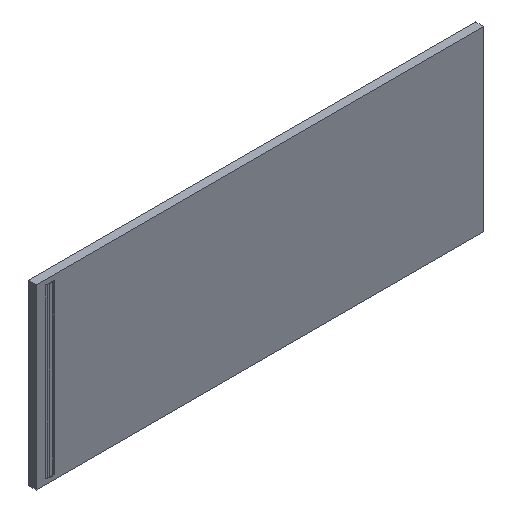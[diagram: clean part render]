
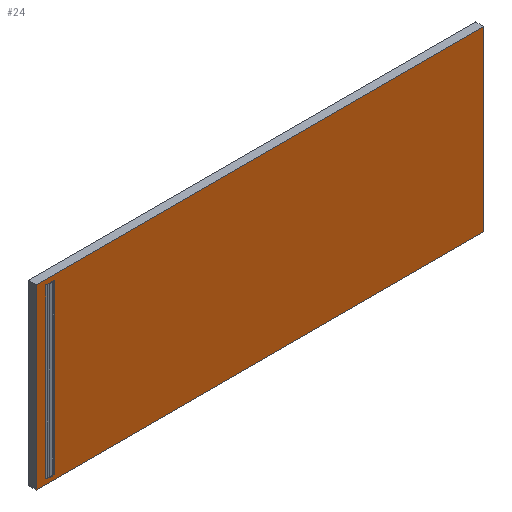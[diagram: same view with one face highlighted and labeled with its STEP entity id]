
A CAD part, isometric view. The second image highlights one B-rep face of the part: STEP entity #24.
In plain terms, the highlighted planar face has unit normal (0, -1, 0).
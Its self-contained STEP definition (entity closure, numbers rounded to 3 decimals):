
#5 = ORIENTED_EDGE ( 'NONE', *, *, #60, .F. ) ;
#16 = LINE ( 'NONE', #391, #256 ) ;
#17 = CARTESIAN_POINT ( 'NONE',  ( -44.232, 0., -17.35 ) ) ;
#18 = LINE ( 'NONE', #252, #229 ) ;
#24 = ADVANCED_FACE ( 'NONE', ( #395, #79 ), #146, .F. ) ;
#41 = VERTEX_POINT ( 'NONE', #17 ) ;
#52 = ORIENTED_EDGE ( 'NONE', *, *, #416, .T. ) ;
#60 = EDGE_CURVE ( 'NONE', #246, #207, #125, .T. ) ;
#61 = DIRECTION ( 'NONE',  ( 0., 0., -1. ) ) ;
#63 = CARTESIAN_POINT ( 'NONE',  ( 46.2, 0., 18.35 ) ) ;
#79 = FACE_OUTER_BOUND ( 'NONE', #415, .T. ) ;
#85 = DIRECTION ( 'NONE',  ( 0., 1., 0. ) ) ;
#89 = EDGE_CURVE ( 'NONE', #209, #283, #153, .T. ) ;
#97 = CARTESIAN_POINT ( 'NONE',  ( -46.2, 0., -17.35 ) ) ;
#101 = EDGE_LOOP ( 'NONE', ( #418, #52, #112, #321 ) ) ;
#105 = ORIENTED_EDGE ( 'NONE', *, *, #89, .F. ) ;
#112 = ORIENTED_EDGE ( 'NONE', *, *, #141, .T. ) ;
#125 = LINE ( 'NONE', #293, #302 ) ;
#126 = VECTOR ( 'NONE', #61, 1000. ) ;
#141 = EDGE_CURVE ( 'NONE', #197, #41, #437, .T. ) ;
#146 = PLANE ( 'NONE',  #398 ) ;
#149 = DIRECTION ( 'NONE',  ( 0., 0., 1. ) ) ;
#153 = LINE ( 'NONE', #160, #126 ) ;
#160 = CARTESIAN_POINT ( 'NONE',  ( 46.2, 0., -18.35 ) ) ;
#167 = CARTESIAN_POINT ( 'NONE',  ( -46.2, 0., 18.35 ) ) ;
#170 = VERTEX_POINT ( 'NONE', #405 ) ;
#173 = DIRECTION ( 'NONE',  ( 0., 0., -1. ) ) ;
#179 = VECTOR ( 'NONE', #450, 1000. ) ;
#192 = DIRECTION ( 'NONE',  ( 0., 0., 1. ) ) ;
#197 = VERTEX_POINT ( 'NONE', #419 ) ;
#202 = LINE ( 'NONE', #270, #212 ) ;
#206 = CARTESIAN_POINT ( 'NONE',  ( -42.468, 0., 17.35 ) ) ;
#207 = VERTEX_POINT ( 'NONE', #167 ) ;
#209 = VERTEX_POINT ( 'NONE', #63 ) ;
#212 = VECTOR ( 'NONE', #242, 1000. ) ;
#229 = VECTOR ( 'NONE', #386, 1000. ) ;
#239 = EDGE_CURVE ( 'NONE', #41, #170, #272, .T. ) ;
#242 = DIRECTION ( 'NONE',  ( 1., 0., 0. ) ) ;
#246 = VERTEX_POINT ( 'NONE', #311 ) ;
#252 = CARTESIAN_POINT ( 'NONE',  ( -46.2, 0., 18.35 ) ) ;
#256 = VECTOR ( 'NONE', #173, 1000. ) ;
#263 = DIRECTION ( 'NONE',  ( -1., 0., 0. ) ) ;
#270 = CARTESIAN_POINT ( 'NONE',  ( -46.2, 0., 17.35 ) ) ;
#272 = LINE ( 'NONE', #448, #179 ) ;
#283 = VERTEX_POINT ( 'NONE', #375 ) ;
#293 = CARTESIAN_POINT ( 'NONE',  ( -46.2, 0., -18.35 ) ) ;
#302 = VECTOR ( 'NONE', #192, 1000. ) ;
#304 = ORIENTED_EDGE ( 'NONE', *, *, #433, .F. ) ;
#311 = CARTESIAN_POINT ( 'NONE',  ( -46.2, 0., -18.35 ) ) ;
#313 = EDGE_CURVE ( 'NONE', #170, #435, #202, .T. ) ;
#321 = ORIENTED_EDGE ( 'NONE', *, *, #239, .T. ) ;
#327 = EDGE_CURVE ( 'NONE', #283, #246, #371, .T. ) ;
#358 = CARTESIAN_POINT ( 'NONE',  ( 0., 0., 0. ) ) ;
#371 = LINE ( 'NONE', #409, #377 ) ;
#375 = CARTESIAN_POINT ( 'NONE',  ( 46.2, 0., -18.35 ) ) ;
#376 = VECTOR ( 'NONE', #263, 1000. ) ;
#377 = VECTOR ( 'NONE', #407, 1000. ) ;
#386 = DIRECTION ( 'NONE',  ( 1., 0., 0. ) ) ;
#391 = CARTESIAN_POINT ( 'NONE',  ( -42.468, 0., 0. ) ) ;
#395 = FACE_BOUND ( 'NONE', #101, .T. ) ;
#398 = AXIS2_PLACEMENT_3D ( 'NONE', #358, #85, #149 ) ;
#405 = CARTESIAN_POINT ( 'NONE',  ( -44.232, 0., 17.35 ) ) ;
#407 = DIRECTION ( 'NONE',  ( -1., 0., 0. ) ) ;
#409 = CARTESIAN_POINT ( 'NONE',  ( -46.2, 0., -18.35 ) ) ;
#415 = EDGE_LOOP ( 'NONE', ( #5, #421, #105, #304 ) ) ;
#416 = EDGE_CURVE ( 'NONE', #435, #197, #16, .T. ) ;
#418 = ORIENTED_EDGE ( 'NONE', *, *, #313, .T. ) ;
#419 = CARTESIAN_POINT ( 'NONE',  ( -42.468, 0., -17.35 ) ) ;
#421 = ORIENTED_EDGE ( 'NONE', *, *, #327, .F. ) ;
#433 = EDGE_CURVE ( 'NONE', #207, #209, #18, .T. ) ;
#435 = VERTEX_POINT ( 'NONE', #206 ) ;
#437 = LINE ( 'NONE', #97, #376 ) ;
#448 = CARTESIAN_POINT ( 'NONE',  ( -44.232, 0., 0. ) ) ;
#450 = DIRECTION ( 'NONE',  ( 0., 0., 1. ) ) ;
